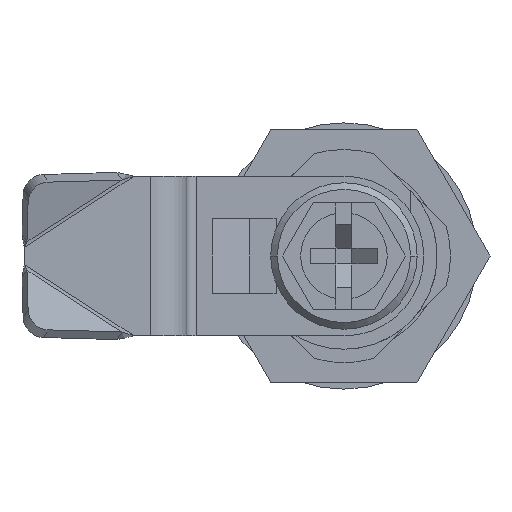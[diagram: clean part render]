
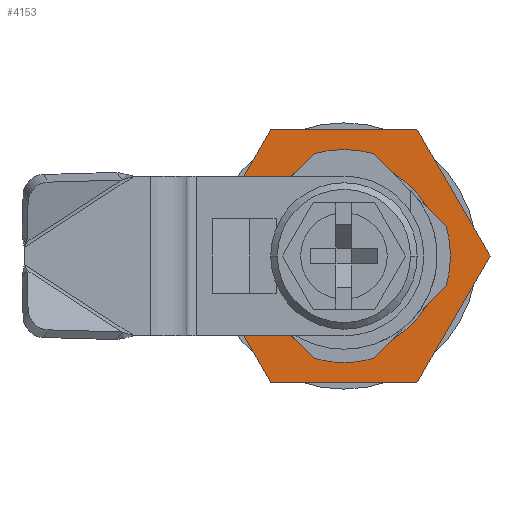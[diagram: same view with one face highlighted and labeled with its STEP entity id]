
A CAD part, front view. The second image highlights one B-rep face of the part: STEP entity #4153.
In plain terms, the highlighted planar face has unit normal (0, -1, 0) as drawn and (0, 0, 1) by its records, which use the part's own axes.
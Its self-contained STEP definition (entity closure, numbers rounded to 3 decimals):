
#31 = ORIENTED_EDGE ( 'NONE', *, *, #3829, .T. ) ;
#119 = LINE ( 'NONE', #4170, #1723 ) ;
#225 = EDGE_CURVE ( 'NONE', #2613, #2530, #119, .T. ) ;
#262 = VERTEX_POINT ( 'NONE', #1990 ) ;
#300 = CARTESIAN_POINT ( 'NONE',  ( -7.25, 0., 3. ) ) ;
#366 = EDGE_CURVE ( 'NONE', #575, #2613, #884, .T. ) ;
#402 = ORIENTED_EDGE ( 'NONE', *, *, #225, .T. ) ;
#412 = DIRECTION ( 'NONE',  ( 1., 0., 0. ) ) ;
#528 = VERTEX_POINT ( 'NONE', #300 ) ;
#570 = ORIENTED_EDGE ( 'NONE', *, *, #3088, .T. ) ;
#575 = VERTEX_POINT ( 'NONE', #849 ) ;
#628 = VERTEX_POINT ( 'NONE', #2589 ) ;
#646 = DIRECTION ( 'NONE',  ( 1., 0., 0. ) ) ;
#849 = CARTESIAN_POINT ( 'NONE',  ( 10.97, 0., 3. ) ) ;
#880 = CIRCLE ( 'NONE', #2639, 7.25 ) ;
#884 = LINE ( 'NONE', #931, #4726 ) ;
#896 = VERTEX_POINT ( 'NONE', #1543 ) ;
#931 = CARTESIAN_POINT ( 'NONE',  ( 10.97, 0., 3. ) ) ;
#975 = ORIENTED_EDGE ( 'NONE', *, *, #2739, .F. ) ;
#1011 = LINE ( 'NONE', #1115, #3413 ) ;
#1012 = EDGE_CURVE ( 'NONE', #528, #628, #3942, .T. ) ;
#1034 = VECTOR ( 'NONE', #1146, 1000. ) ;
#1115 = CARTESIAN_POINT ( 'NONE',  ( -5.485, -9.5, 3. ) ) ;
#1146 = DIRECTION ( 'NONE',  ( 0.5, -0.866, 0. ) ) ;
#1179 = CARTESIAN_POINT ( 'NONE',  ( 5.485, -9.5, 3. ) ) ;
#1282 = CARTESIAN_POINT ( 'NONE',  ( -5.485, 9.5, 3. ) ) ;
#1511 = ORIENTED_EDGE ( 'NONE', *, *, #1012, .F. ) ;
#1543 = CARTESIAN_POINT ( 'NONE',  ( -10.97, 0., 3. ) ) ;
#1723 = VECTOR ( 'NONE', #3151, 1000. ) ;
#1735 = DIRECTION ( 'NONE',  ( -0.5, -0.866, 0. ) ) ;
#1830 = CARTESIAN_POINT ( 'NONE',  ( 0., 0., 3. ) ) ;
#1990 = CARTESIAN_POINT ( 'NONE',  ( -5.485, -9.5, 3. ) ) ;
#2064 = VERTEX_POINT ( 'NONE', #4584 ) ;
#2167 = CARTESIAN_POINT ( 'NONE',  ( -5.485, 9.5, 3. ) ) ;
#2219 = DIRECTION ( 'NONE',  ( 0., 0., 1. ) ) ;
#2269 = CARTESIAN_POINT ( 'NONE',  ( 0., 0., 3. ) ) ;
#2530 = VERTEX_POINT ( 'NONE', #2167 ) ;
#2589 = CARTESIAN_POINT ( 'NONE',  ( 7.25, 0., 3. ) ) ;
#2600 = DIRECTION ( 'NONE',  ( 1., 0., 0. ) ) ;
#2613 = VERTEX_POINT ( 'NONE', #4401 ) ;
#2639 = AXIS2_PLACEMENT_3D ( 'NONE', #2269, #3417, #412 ) ;
#2739 = EDGE_CURVE ( 'NONE', #628, #528, #880, .T. ) ;
#2743 = LINE ( 'NONE', #1282, #2941 ) ;
#2762 = FACE_OUTER_BOUND ( 'NONE', #3453, .T. ) ;
#2941 = VECTOR ( 'NONE', #1735, 1000. ) ;
#2951 = ORIENTED_EDGE ( 'NONE', *, *, #366, .T. ) ;
#3088 = EDGE_CURVE ( 'NONE', #262, #2064, #1011, .T. ) ;
#3151 = DIRECTION ( 'NONE',  ( -1., 0., 0. ) ) ;
#3275 = CARTESIAN_POINT ( 'NONE',  ( -10.97, 0., 3. ) ) ;
#3280 = EDGE_LOOP ( 'NONE', ( #1511, #975 ) ) ;
#3413 = VECTOR ( 'NONE', #4042, 1000. ) ;
#3417 = DIRECTION ( 'NONE',  ( 0., 0., 1. ) ) ;
#3453 = EDGE_LOOP ( 'NONE', ( #3599, #2951, #402, #3907, #31, #570 ) ) ;
#3482 = AXIS2_PLACEMENT_3D ( 'NONE', #1830, #2219, #2600 ) ;
#3490 = PLANE ( 'NONE',  #4642 ) ;
#3539 = DIRECTION ( 'NONE',  ( -0.5, 0.866, 0. ) ) ;
#3599 = ORIENTED_EDGE ( 'NONE', *, *, #4508, .T. ) ;
#3680 = LINE ( 'NONE', #3275, #1034 ) ;
#3829 = EDGE_CURVE ( 'NONE', #896, #262, #3680, .T. ) ;
#3861 = VECTOR ( 'NONE', #4119, 1000. ) ;
#3877 = FACE_BOUND ( 'NONE', #3280, .T. ) ;
#3907 = ORIENTED_EDGE ( 'NONE', *, *, #4096, .T. ) ;
#3942 = CIRCLE ( 'NONE', #3482, 7.25 ) ;
#4042 = DIRECTION ( 'NONE',  ( 1., 0., 0. ) ) ;
#4096 = EDGE_CURVE ( 'NONE', #2530, #896, #2743, .T. ) ;
#4119 = DIRECTION ( 'NONE',  ( 0.5, 0.866, 0. ) ) ;
#4153 = ADVANCED_FACE ( 'NONE', ( #2762, #3877 ), #3490, .T. ) ;
#4170 = CARTESIAN_POINT ( 'NONE',  ( 5.485, 9.5, 3. ) ) ;
#4212 = CARTESIAN_POINT ( 'NONE',  ( 10.97, 0., 3. ) ) ;
#4285 = DIRECTION ( 'NONE',  ( 0., 0., 1. ) ) ;
#4401 = CARTESIAN_POINT ( 'NONE',  ( 5.485, 9.5, 3. ) ) ;
#4467 = LINE ( 'NONE', #1179, #3861 ) ;
#4508 = EDGE_CURVE ( 'NONE', #2064, #575, #4467, .T. ) ;
#4584 = CARTESIAN_POINT ( 'NONE',  ( 5.485, -9.5, 3. ) ) ;
#4642 = AXIS2_PLACEMENT_3D ( 'NONE', #4212, #4285, #646 ) ;
#4726 = VECTOR ( 'NONE', #3539, 1000. ) ;
